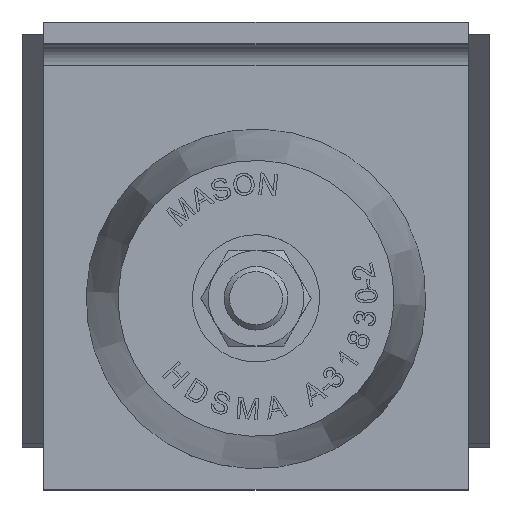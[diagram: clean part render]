
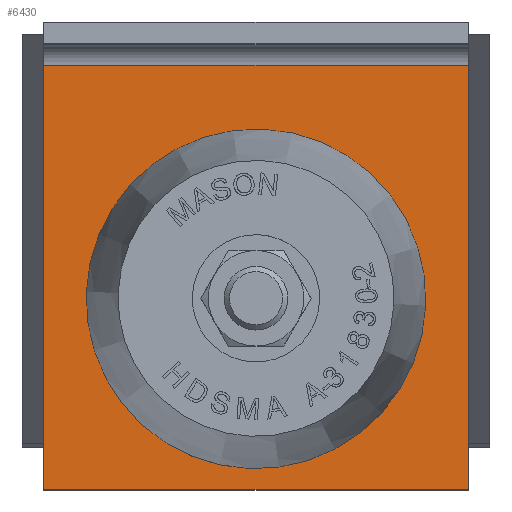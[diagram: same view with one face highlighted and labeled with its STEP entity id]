
A CAD part, top view. The second image highlights one B-rep face of the part: STEP entity #6430.
In plain terms, the highlighted planar face has unit normal (0, 0, 1).
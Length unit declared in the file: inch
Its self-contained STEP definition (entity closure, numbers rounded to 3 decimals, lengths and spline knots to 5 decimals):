
#847=LINE('',#11427,#1380);
#868=LINE('',#11468,#1401);
#875=LINE('',#11484,#1408);
#895=LINE('',#11524,#1428);
#900=LINE('',#11555,#1433);
#906=LINE('',#11568,#1439);
#909=LINE('',#11574,#1442);
#911=LINE('',#11578,#1444);
#1380=VECTOR('',#7678,1.41421);
#1401=VECTOR('',#7713,0.30178);
#1408=VECTOR('',#7724,0.78401);
#1428=VECTOR('',#7756,1.41421);
#1433=VECTOR('',#7791,0.78401);
#1439=VECTOR('',#7801,0.30178);
#1442=VECTOR('',#7810,2.5);
#1444=VECTOR('',#7816,2.5);
#1650=PLANE('',#6720);
#1747=FACE_BOUND('',#2506,.T.);
#2090=FACE_OUTER_BOUND('',#2505,.T.);
#2505=EDGE_LOOP('',(#5700,#5701,#5702,#5703,#5704,#5705,#5706,#5707));
#2506=EDGE_LOOP('',(#5708));
#2561=CIRCLE('',#6681,0.53125);
#3100=VERTEX_POINT('',#11420);
#3102=VERTEX_POINT('',#11425);
#3103=VERTEX_POINT('',#11426);
#3116=VERTEX_POINT('',#11467);
#3123=VERTEX_POINT('',#11482);
#3133=VERTEX_POINT('',#11507);
#3136=VERTEX_POINT('',#11518);
#3148=VERTEX_POINT('',#11554);
#3153=VERTEX_POINT('',#11566);
#3930=EDGE_CURVE('',#3100,#3100,#2561,.T.);
#3932=EDGE_CURVE('',#3102,#3103,#847,.T.);
#3953=EDGE_CURVE('',#3103,#3116,#868,.T.);
#3962=EDGE_CURVE('',#3123,#3102,#875,.T.);
#3982=EDGE_CURVE('',#3136,#3133,#895,.T.);
#3995=EDGE_CURVE('',#3133,#3148,#900,.T.);
#4003=EDGE_CURVE('',#3153,#3136,#906,.T.);
#4006=EDGE_CURVE('',#3123,#3148,#909,.T.);
#4008=EDGE_CURVE('',#3116,#3153,#911,.T.);
#5700=ORIENTED_EDGE('',*,*,#4006,.T.);
#5701=ORIENTED_EDGE('',*,*,#3995,.F.);
#5702=ORIENTED_EDGE('',*,*,#3982,.F.);
#5703=ORIENTED_EDGE('',*,*,#4003,.F.);
#5704=ORIENTED_EDGE('',*,*,#4008,.F.);
#5705=ORIENTED_EDGE('',*,*,#3953,.F.);
#5706=ORIENTED_EDGE('',*,*,#3932,.F.);
#5707=ORIENTED_EDGE('',*,*,#3962,.F.);
#5708=ORIENTED_EDGE('',*,*,#3930,.T.);
#6430=ADVANCED_FACE('',(#2090,#1747),#1650,.T.);
#6681=AXIS2_PLACEMENT_3D('',#11421,#7672,#7673);
#6720=AXIS2_PLACEMENT_3D('',#11577,#7814,#7815);
#7672=DIRECTION('center_axis',(0.,0.,
-1.));
#7673=DIRECTION('ref_axis',(1.,0.,0.));
#7678=DIRECTION('',(0.,-1.,0.));
#7713=DIRECTION('',(0.,-1.,0.));
#7724=DIRECTION('',(0.,-1.,0.));
#7756=DIRECTION('',(0.,1.,0.));
#7791=DIRECTION('',(0.,1.,0.));
#7801=DIRECTION('',(0.,1.,0.));
#7810=DIRECTION('',(-1.,0.,0.));
#7814=DIRECTION('center_axis',(0.,0.,
1.));
#7815=DIRECTION('ref_axis',(1.,0.,0.));
#7816=DIRECTION('',(-1.,0.,0.));
#11420=CARTESIAN_POINT('',(0.53125,0.,0.125));
#11421=CARTESIAN_POINT('Origin',(0.,0.,
0.125));
#11425=CARTESIAN_POINT('',(1.25,0.59099,0.125));
#11426=CARTESIAN_POINT('',(1.25,-0.82322,0.125));
#11427=CARTESIAN_POINT('',(1.25,1.625,0.125));
#11467=CARTESIAN_POINT('',(1.25,-1.125,0.125));
#11468=CARTESIAN_POINT('',(1.25,1.625,0.125));
#11482=CARTESIAN_POINT('',(1.25,1.375,0.125));
#11484=CARTESIAN_POINT('',(1.25,1.625,0.125));
#11507=CARTESIAN_POINT('',(-1.25,0.59099,0.125));
#11518=CARTESIAN_POINT('',(-1.25,-0.82322,0.125));
#11524=CARTESIAN_POINT('',(-1.25,-1.125,0.125));
#11554=CARTESIAN_POINT('',(-1.25,1.375,0.125));
#11555=CARTESIAN_POINT('',(-1.25,-1.125,0.125));
#11566=CARTESIAN_POINT('',(-1.25,-1.125,0.125));
#11568=CARTESIAN_POINT('',(-1.25,-1.125,0.125));
#11574=CARTESIAN_POINT('',(-0.625,1.375,0.125));
#11577=CARTESIAN_POINT('Origin',(0.,0.25,0.125));
#11578=CARTESIAN_POINT('',(1.25,-1.125,0.125));
